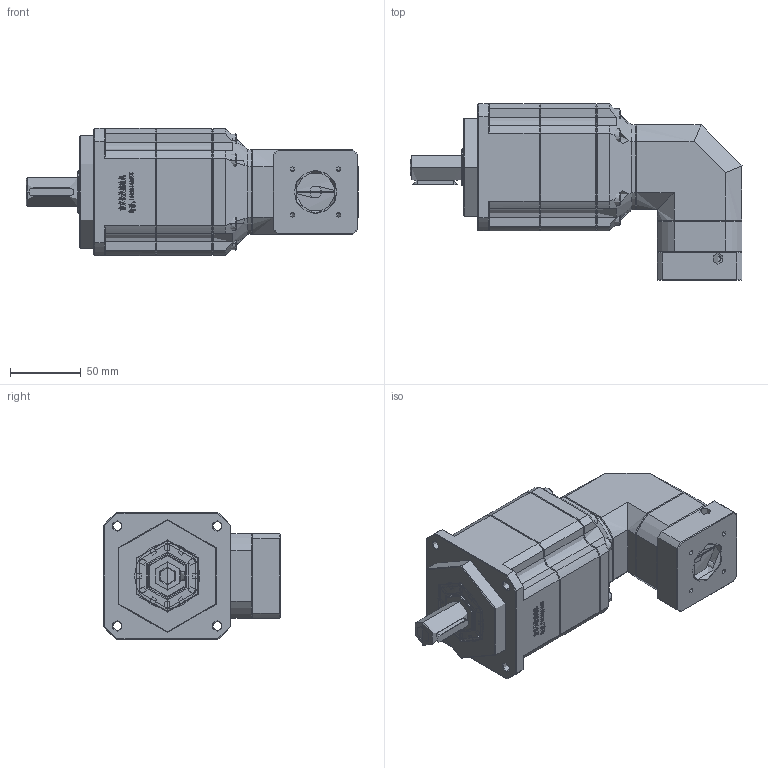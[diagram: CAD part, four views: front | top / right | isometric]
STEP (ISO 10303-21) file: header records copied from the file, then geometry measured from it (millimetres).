
FILE_DESCRIPTION (( 'STEP AP214' ), '1' );
FILE_NAME ('ZPBR090-D20-L3-P1-8-30-46-M4.step', '2024-06-07T18:33:17', ( 'Windows 蚚誧' ), ( 'Organization' ), 'SwSTEP 2.0', 'SolidWorks 2016', '' );
FILE_SCHEMA (( 'AUTOMOTIVE_DESIGN' ));
Length unit declared in the file: millimetre
Products named in the file (1): ZPBR090-D20-L3-P1-8-30-46-M4
Bounding box: 235 x 125 x 90 mm (x, y, z)
Topology: 0 solids, 34 shells, 2073 faces, 5425 edges, 3435 vertices
Faces by surface type: plane 1123, bspline 397, cylinder 278, cone 275
Full cylindrical faces by diameter (mm): 6.72 x1
Entity records: 101640 total; most frequent: CARTESIAN_POINT 49579, ORIENTED_EDGE 10794, DIRECTION 8564, EDGE_CURVE 5426, LINE 3526, VECTOR 3526, VERTEX_POINT 3435, AXIS2_PLACEMENT_3D 2519
